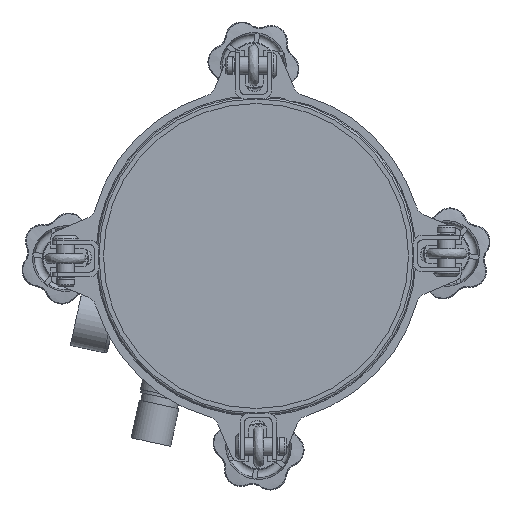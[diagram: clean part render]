
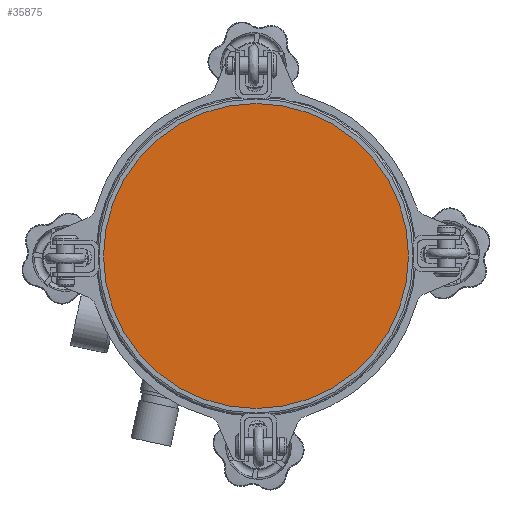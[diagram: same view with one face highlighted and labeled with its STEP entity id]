
A CAD part, front view. The second image highlights one B-rep face of the part: STEP entity #35875.
In plain terms, the highlighted planar face has unit normal (0, -1, 0).
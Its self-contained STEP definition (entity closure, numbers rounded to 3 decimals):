
#1570 = ORIENTED_EDGE ( 'NONE', *, *, #30493, .F. ) ;
#9778 = FACE_OUTER_BOUND ( 'NONE', #56306, .T. ) ;
#15128 = VERTEX_POINT ( 'NONE', #60874 ) ;
#16398 = CARTESIAN_POINT ( 'NONE',  ( 0., 3., 0. ) ) ;
#27067 = AXIS2_PLACEMENT_3D ( 'NONE', #16398, #73357, #56159 ) ;
#30493 = EDGE_CURVE ( 'NONE', #15128, #15128, #61764, .T. ) ;
#33003 = CARTESIAN_POINT ( 'NONE',  ( 0., 3., 0. ) ) ;
#35875 = ADVANCED_FACE ( 'NONE', ( #9778 ), #49541, .T. ) ;
#49541 = PLANE ( 'NONE',  #63188 ) ;
#56159 = DIRECTION ( 'NONE',  ( 1., 0., 0. ) ) ;
#56306 = EDGE_LOOP ( 'NONE', ( #1570 ) ) ;
#60874 = CARTESIAN_POINT ( 'NONE',  ( 100., 3., 0. ) ) ;
#61764 = CIRCLE ( 'NONE', #27067, 100. ) ;
#63188 = AXIS2_PLACEMENT_3D ( 'NONE', #33003, #71642, #63357 ) ;
#63357 = DIRECTION ( 'NONE',  ( 1., 0., 0. ) ) ;
#71642 = DIRECTION ( 'NONE',  ( 0., -1., 0. ) ) ;
#73357 = DIRECTION ( 'NONE',  ( 0., 1., 0. ) ) ;
